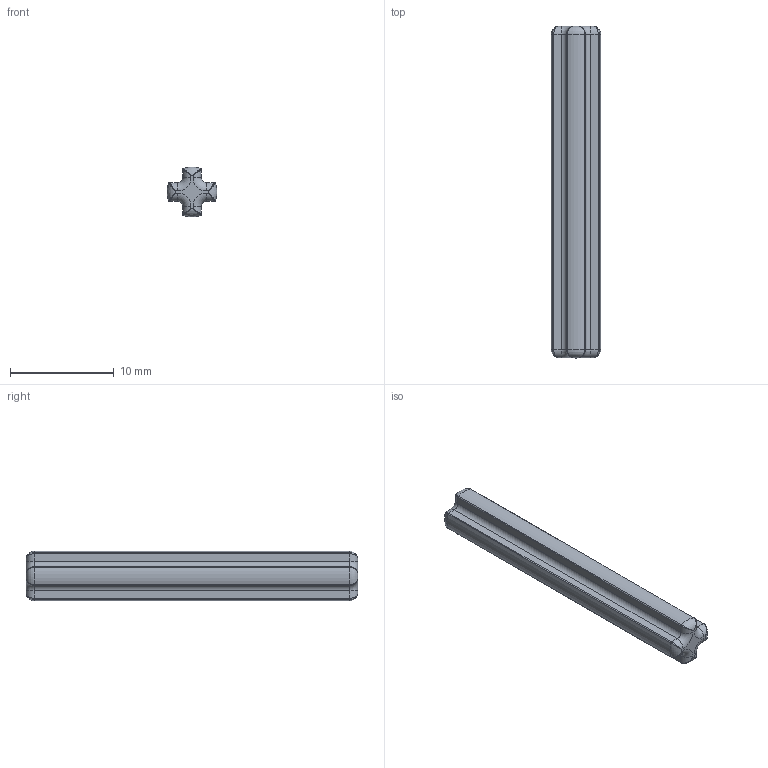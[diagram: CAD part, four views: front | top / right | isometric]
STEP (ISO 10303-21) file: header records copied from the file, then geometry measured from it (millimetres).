
FILE_DESCRIPTION(/* description */ ('Unknown'),/* implementation_level */ '2;1');
FILE_NAME(/* name */ 'Black_370526_JCA',/* time_stamp */ '2025-07-21T23:42:37+02:00',/* author */ ('Unknown'),/* organization */ ('Unknown'),/* preprocessor_version */ 'ST-DEVELOPER v19.4',/* originating_system */ 'Solid Edge',/* authorisation */ 'Unknown');
FILE_SCHEMA (('AUTOMOTIVE_DESIGN {1 0 10303 214 3 1 1}'));
Length unit declared in the file: millimetre
Products named in the file (1): Black_370526_JCA
Bounding box: 4.79 x 32 x 4.79 mm (x, y, z)
Volume: 438.3 mm3; surface area: 558.8 mm2
Topology: 1 solids, 1 shells, 74 faces, 168 edges, 80 vertices
Faces by surface type: cylinder 32, torus 16, bspline 16, plane 10
Entity records: 2142 total; most frequent: CARTESIAN_POINT 659, ORIENTED_EDGE 304, DIRECTION 302, EDGE_CURVE 152, AXIS2_PLACEMENT_3D 123, VERTEX_POINT 80, EDGE_LOOP 74, FACE_BOUND 74
